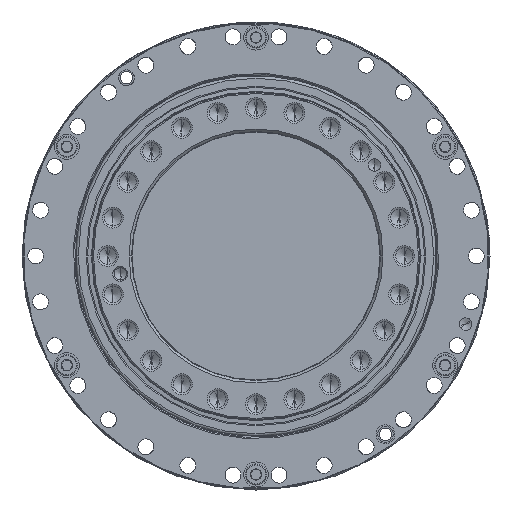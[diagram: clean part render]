
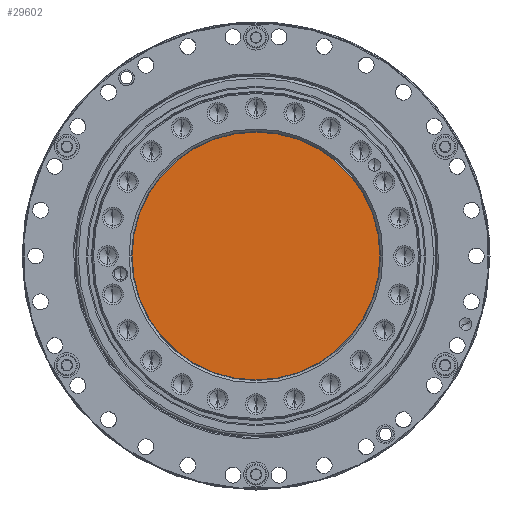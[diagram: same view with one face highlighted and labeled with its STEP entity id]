
A CAD part, left-side view. The second image highlights one B-rep face of the part: STEP entity #29602.
In plain terms, the highlighted planar face has unit normal (-1, 0, 0) as drawn and (1, 0, 0) by its records, which use the part's own axes.
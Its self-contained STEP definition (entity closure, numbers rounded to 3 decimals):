
#29459=CARTESIAN_POINT('',(10.,0.,0.));
#29460=DIRECTION('',(-1.,0.,0.));
#29461=DIRECTION('',(0.,1.,0.));
#29462=AXIS2_PLACEMENT_3D('',#29459,#29460,#29461);
#29464=CARTESIAN_POINT('',(10.,0.,0.));
#29465=DIRECTION('',(-1.,0.,0.));
#29466=DIRECTION('',(0.,-1.,0.));
#29467=AXIS2_PLACEMENT_3D('',#29464,#29465,#29466);
#29489=CARTESIAN_POINT('',(10.,-49.8,0.));
#29490=VERTEX_POINT('',#29489);
#29491=CARTESIAN_POINT('',(10.,49.8,0.));
#29492=VERTEX_POINT('',#29491);
#29593=CARTESIAN_POINT('',(10.,0.,0.));
#29594=DIRECTION('',(1.,0.,0.));
#29595=DIRECTION('',(0.,-1.,0.));
#29596=AXIS2_PLACEMENT_3D('',#29593,#29594,#29595);
#29597=PLANE('',#29596);
#29598=ORIENTED_EDGE('',*,*,#29573,.T.);
#29599=ORIENTED_EDGE('',*,*,#29587,.T.);
#29600=EDGE_LOOP('',(#29598,#29599));
#29601=FACE_OUTER_BOUND('',#29600,.F.);
#29602=ADVANCED_FACE('',(#29601),#29597,.T.);
#29463=CIRCLE('',#29462,49.8);
#29468=CIRCLE('',#29467,49.8);
#29573=EDGE_CURVE('',#29492,#29490,#29463,.T.);
#29587=EDGE_CURVE('',#29490,#29492,#29468,.T.);
